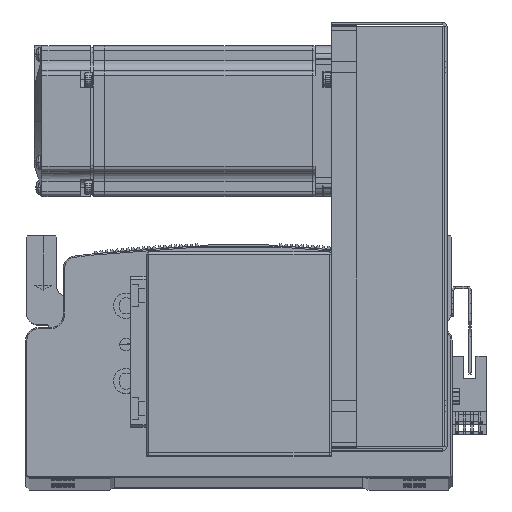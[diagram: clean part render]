
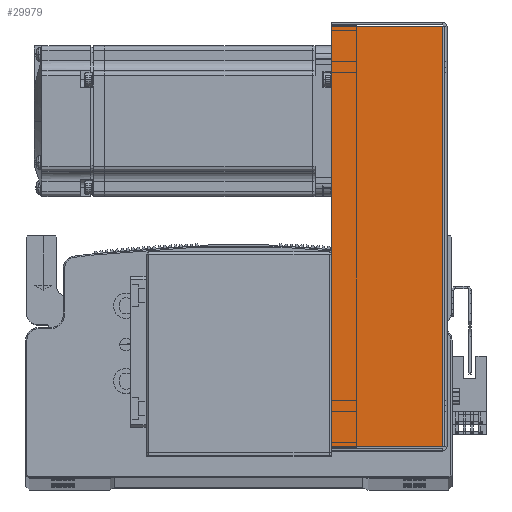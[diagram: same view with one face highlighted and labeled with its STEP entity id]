
A CAD part, top view. The second image highlights one B-rep face of the part: STEP entity #29979.
In plain terms, the highlighted planar face has unit normal (0, 0, 1).
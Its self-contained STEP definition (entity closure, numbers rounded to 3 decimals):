
#2685 = FACE_OUTER_BOUND ( 'NONE', #56988, .T. ) ;
#9174 = ORIENTED_EDGE ( 'NONE', *, *, #65901, .T. ) ;
#9179 = ORIENTED_EDGE ( 'NONE', *, *, #65925, .F. ) ;
#9192 = ORIENTED_EDGE ( 'NONE', *, *, #65896, .F. ) ;
#9269 = ORIENTED_EDGE ( 'NONE', *, *, #65980, .T. ) ;
#29979 = ADVANCED_FACE ( 'NONE', ( #2685 ), #72645, .F. ) ;
#38248 = CARTESIAN_POINT ( 'NONE',  ( -83.793, 45., 40.5 ) ) ;
#38351 = CARTESIAN_POINT ( 'NONE',  ( -83.793, 0.737, 40.5 ) ) ;
#38365 = CARTESIAN_POINT ( 'NONE',  ( 83.793, 0.737, 40.5 ) ) ;
#38405 = CARTESIAN_POINT ( 'NONE',  ( 83.793, 45., 40.5 ) ) ;
#47906 = VERTEX_POINT ( 'NONE', #38248 ) ;
#47988 = VERTEX_POINT ( 'NONE', #38365 ) ;
#47990 = VERTEX_POINT ( 'NONE', #38351 ) ;
#47996 = VERTEX_POINT ( 'NONE', #38405 ) ;
#48285 = AXIS2_PLACEMENT_3D ( 'NONE', #72633, #72650, #72652 ) ;
#56988 = EDGE_LOOP ( 'NONE', ( #9179, #9174, #9269, #9192 ) ) ;
#61834 = CARTESIAN_POINT ( 'NONE',  ( 83.793, 0., 40.5 ) ) ;
#61850 = CARTESIAN_POINT ( 'NONE',  ( -83.793, 0., 40.5 ) ) ;
#61853 = DIRECTION ( 'NONE',  ( 0., 1., 0. ) ) ;
#61878 = DIRECTION ( 'NONE',  ( -1., 0., 0. ) ) ;
#61890 = CARTESIAN_POINT ( 'NONE',  ( 0., 0.737, 40.5 ) ) ;
#61906 = DIRECTION ( 'NONE',  ( 0., 1., 0. ) ) ;
#61968 = CARTESIAN_POINT ( 'NONE',  ( -84.5, 45., 40.5 ) ) ;
#61979 = DIRECTION ( 'NONE',  ( -1., 0., 0. ) ) ;
#65896 = EDGE_CURVE ( 'NONE', #47990, #47906, #80802, .T. ) ;
#65901 = EDGE_CURVE ( 'NONE', #47988, #47996, #80854, .T. ) ;
#65925 = EDGE_CURVE ( 'NONE', #47988, #47990, #80744, .T. ) ;
#65980 = EDGE_CURVE ( 'NONE', #47996, #47906, #79008, .T. ) ;
#72633 = CARTESIAN_POINT ( 'NONE',  ( 0., 0., 40.5 ) ) ;
#72645 = PLANE ( 'NONE',  #48285 ) ;
#72650 = DIRECTION ( 'NONE',  ( 0., 0., -1. ) ) ;
#72652 = DIRECTION ( 'NONE',  ( -1., 0., 0. ) ) ;
#79008 = LINE ( 'NONE', #61968, #79017 ) ;
#79017 = VECTOR ( 'NONE', #61979, 1000. ) ;
#80744 = LINE ( 'NONE', #61890, #80764 ) ;
#80764 = VECTOR ( 'NONE', #61878, 1000. ) ;
#80780 = VECTOR ( 'NONE', #61853, 1000. ) ;
#80802 = LINE ( 'NONE', #61850, #80780 ) ;
#80810 = VECTOR ( 'NONE', #61906, 1000. ) ;
#80854 = LINE ( 'NONE', #61834, #80810 ) ;
